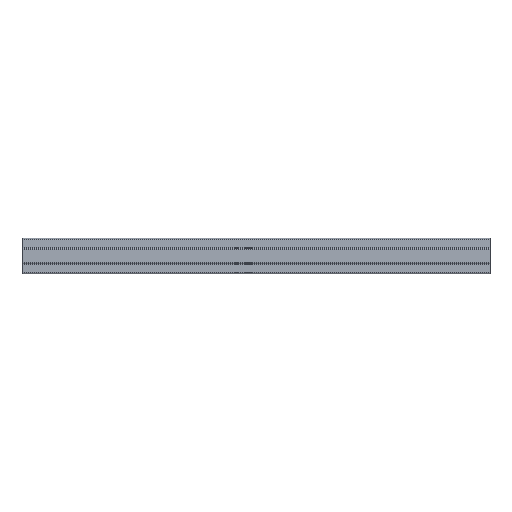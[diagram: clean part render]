
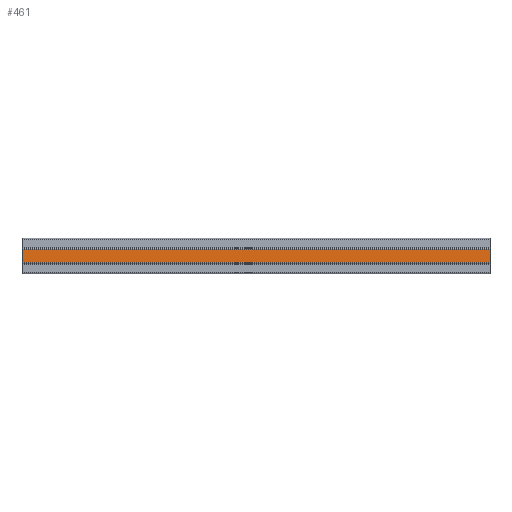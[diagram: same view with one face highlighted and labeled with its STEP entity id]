
A CAD part, top view. The second image highlights one B-rep face of the part: STEP entity #461.
In plain terms, the highlighted planar face has unit normal (0, 0.038, 0.999).
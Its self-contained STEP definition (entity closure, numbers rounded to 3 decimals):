
#43 = DIRECTION ( 'NONE',  ( -1., 0., 0. ) ) ;
#133 = LINE ( 'NONE', #342, #346 ) ;
#233 = VECTOR ( 'NONE', #43, 1000. ) ;
#242 = DIRECTION ( 'NONE',  ( 0., -0.999, 0.038 ) ) ;
#342 = CARTESIAN_POINT ( 'NONE',  ( 200., 2.866, 4.812 ) ) ;
#346 = VECTOR ( 'NONE', #2344, 1000. ) ;
#348 = VERTEX_POINT ( 'NONE', #1187 ) ;
#373 = EDGE_CURVE ( 'NONE', #1051, #567, #133, .T. ) ;
#413 = LINE ( 'NONE', #1134, #422 ) ;
#422 = VECTOR ( 'NONE', #242, 1000. ) ;
#461 = ADVANCED_FACE ( 'NONE', ( #694 ), #1003, .F. ) ;
#567 = VERTEX_POINT ( 'NONE', #2231 ) ;
#630 = EDGE_CURVE ( 'NONE', #1051, #1403, #937, .T. ) ;
#634 = EDGE_CURVE ( 'NONE', #567, #348, #2103, .T. ) ;
#693 = ORIENTED_EDGE ( 'NONE', *, *, #634, .F. ) ;
#694 = FACE_OUTER_BOUND ( 'NONE', #1728, .T. ) ;
#740 = ORIENTED_EDGE ( 'NONE', *, *, #373, .F. ) ;
#771 = CARTESIAN_POINT ( 'NONE',  ( 200., -2.701, 5.026 ) ) ;
#903 = DIRECTION ( 'NONE',  ( 0., -0.038, -0.999 ) ) ;
#904 = AXIS2_PLACEMENT_3D ( 'NONE', #1488, #903, #2206 ) ;
#937 = LINE ( 'NONE', #1898, #233 ) ;
#956 = CARTESIAN_POINT ( 'NONE',  ( 200., 2.866, 4.812 ) ) ;
#1003 = PLANE ( 'NONE',  #904 ) ;
#1013 = ORIENTED_EDGE ( 'NONE', *, *, #630, .T. ) ;
#1051 = VERTEX_POINT ( 'NONE', #956 ) ;
#1134 = CARTESIAN_POINT ( 'NONE',  ( 0., 2.866, 4.812 ) ) ;
#1186 = EDGE_CURVE ( 'NONE', #1403, #348, #413, .T. ) ;
#1187 = CARTESIAN_POINT ( 'NONE',  ( 0., -2.701, 5.026 ) ) ;
#1403 = VERTEX_POINT ( 'NONE', #1868 ) ;
#1488 = CARTESIAN_POINT ( 'NONE',  ( 200., 2.866, 4.812 ) ) ;
#1711 = DIRECTION ( 'NONE',  ( -1., 0., 0. ) ) ;
#1728 = EDGE_LOOP ( 'NONE', ( #2301, #693, #740, #1013 ) ) ;
#1868 = CARTESIAN_POINT ( 'NONE',  ( 0., 2.866, 4.812 ) ) ;
#1898 = CARTESIAN_POINT ( 'NONE',  ( 200., 2.866, 4.812 ) ) ;
#2103 = LINE ( 'NONE', #771, #2315 ) ;
#2206 = DIRECTION ( 'NONE',  ( 0., 0.999, -0.038 ) ) ;
#2231 = CARTESIAN_POINT ( 'NONE',  ( 200., -2.701, 5.026 ) ) ;
#2301 = ORIENTED_EDGE ( 'NONE', *, *, #1186, .T. ) ;
#2315 = VECTOR ( 'NONE', #1711, 1000. ) ;
#2344 = DIRECTION ( 'NONE',  ( 0., -0.999, 0.038 ) ) ;
